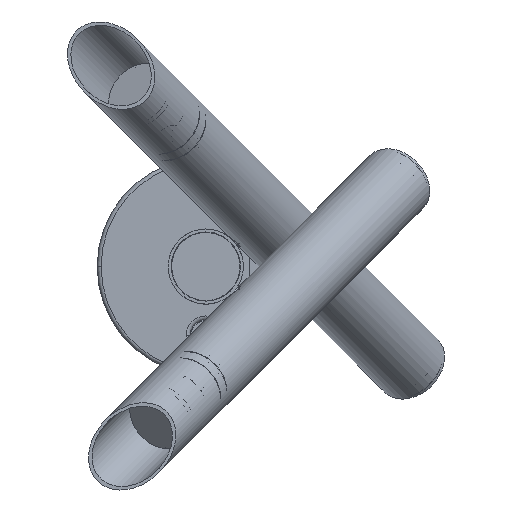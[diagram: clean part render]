
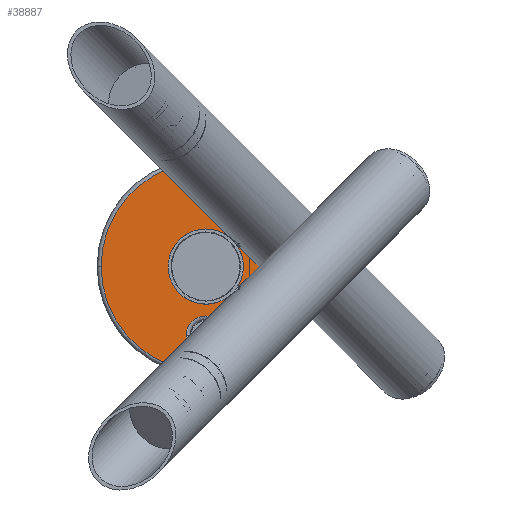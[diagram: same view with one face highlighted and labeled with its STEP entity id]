
A CAD part, front view. The second image highlights one B-rep face of the part: STEP entity #38887.
In plain terms, the highlighted planar face has unit normal (0, -1, 0).
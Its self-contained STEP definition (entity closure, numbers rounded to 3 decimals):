
#416 = EDGE_CURVE ( 'NONE', #54194, #69616, #45746, .T. ) ;
#1630 = DIRECTION ( 'NONE',  ( -1., 0., 0. ) ) ;
#1959 = EDGE_CURVE ( 'NONE', #69616, #54194, #38841, .T. ) ;
#3428 = CIRCLE ( 'NONE', #11368, 10. ) ;
#3968 = CARTESIAN_POINT ( 'NONE',  ( 0., 0., 0. ) ) ;
#4419 = ORIENTED_EDGE ( 'NONE', *, *, #8437, .T. ) ;
#6867 = VERTEX_POINT ( 'NONE', #25228 ) ;
#7138 = DIRECTION ( 'NONE',  ( 0., 1., 0. ) ) ;
#7368 = DIRECTION ( 'NONE',  ( 0., 1., 0. ) ) ;
#7572 = CARTESIAN_POINT ( 'NONE',  ( 0., 0., 0. ) ) ;
#8437 = EDGE_CURVE ( 'NONE', #6867, #61765, #50155, .T. ) ;
#9405 = DIRECTION ( 'NONE',  ( -1., 0., 0. ) ) ;
#9538 = FACE_BOUND ( 'NONE', #16796, .T. ) ;
#10976 = ORIENTED_EDGE ( 'NONE', *, *, #416, .F. ) ;
#11368 = AXIS2_PLACEMENT_3D ( 'NONE', #39543, #7368, #44951 ) ;
#13024 = DIRECTION ( 'NONE',  ( -1., 0., 0. ) ) ;
#14883 = EDGE_CURVE ( 'NONE', #67258, #25877, #48926, .T. ) ;
#15977 = AXIS2_PLACEMENT_3D ( 'NONE', #58848, #26753, #64245 ) ;
#16422 = DIRECTION ( 'NONE',  ( 0., 1., 0. ) ) ;
#16796 = EDGE_LOOP ( 'NONE', ( #68977, #22665 ) ) ;
#21464 = AXIS2_PLACEMENT_3D ( 'NONE', #7572, #45170, #13024 ) ;
#22665 = ORIENTED_EDGE ( 'NONE', *, *, #48272, .T. ) ;
#25228 = CARTESIAN_POINT ( 'NONE',  ( -10., 0., 0. ) ) ;
#25877 = VERTEX_POINT ( 'NONE', #44711 ) ;
#26753 = DIRECTION ( 'NONE',  ( 0., 1., 0. ) ) ;
#28392 = AXIS2_PLACEMENT_3D ( 'NONE', #3968, #41551, #9405 ) ;
#33842 = DIRECTION ( 'NONE',  ( 0., 1., 0. ) ) ;
#34768 = FACE_OUTER_BOUND ( 'NONE', #55350, .T. ) ;
#38841 = CIRCLE ( 'NONE', #21464, 53. ) ;
#38887 = ADVANCED_FACE ( 'NONE', ( #9538, #40287, #34768 ), #66002, .F. ) ;
#38965 = CARTESIAN_POINT ( 'NONE',  ( 0., 0., 0. ) ) ;
#39314 = CARTESIAN_POINT ( 'NONE',  ( 0., 0., 0. ) ) ;
#39543 = CARTESIAN_POINT ( 'NONE',  ( 0., 0., -35. ) ) ;
#40287 = FACE_BOUND ( 'NONE', #56360, .T. ) ;
#40719 = CARTESIAN_POINT ( 'NONE',  ( 10., 0., 0. ) ) ;
#41551 = DIRECTION ( 'NONE',  ( 0., 1., 0. ) ) ;
#42176 = ORIENTED_EDGE ( 'NONE', *, *, #64843, .T. ) ;
#44711 = CARTESIAN_POINT ( 'NONE',  ( 10., 0., -35. ) ) ;
#44732 = DIRECTION ( 'NONE',  ( -1., 0., 0. ) ) ;
#44951 = DIRECTION ( 'NONE',  ( -1., 0., 0. ) ) ;
#45170 = DIRECTION ( 'NONE',  ( 0., 1., 0. ) ) ;
#45746 = CIRCLE ( 'NONE', #15977, 53. ) ;
#46538 = CARTESIAN_POINT ( 'NONE',  ( -10., 0., -35. ) ) ;
#48272 = EDGE_CURVE ( 'NONE', #25877, #67258, #3428, .T. ) ;
#48548 = CARTESIAN_POINT ( 'NONE',  ( 0., 0., -35. ) ) ;
#48926 = CIRCLE ( 'NONE', #68226, 10. ) ;
#50155 = CIRCLE ( 'NONE', #62183, 10. ) ;
#51662 = CARTESIAN_POINT ( 'NONE',  ( 53., 0., 0. ) ) ;
#53988 = DIRECTION ( 'NONE',  ( -1., 0., 0. ) ) ;
#54194 = VERTEX_POINT ( 'NONE', #58953 ) ;
#55350 = EDGE_LOOP ( 'NONE', ( #10976, #60517 ) ) ;
#56360 = EDGE_LOOP ( 'NONE', ( #4419, #42176 ) ) ;
#58373 = CIRCLE ( 'NONE', #28392, 10. ) ;
#58848 = CARTESIAN_POINT ( 'NONE',  ( 0., 0., 0. ) ) ;
#58953 = CARTESIAN_POINT ( 'NONE',  ( -53., 0., 0. ) ) ;
#59435 = AXIS2_PLACEMENT_3D ( 'NONE', #38965, #33842, #1630 ) ;
#60517 = ORIENTED_EDGE ( 'NONE', *, *, #1959, .F. ) ;
#61765 = VERTEX_POINT ( 'NONE', #40719 ) ;
#62183 = AXIS2_PLACEMENT_3D ( 'NONE', #39314, #7138, #44732 ) ;
#64245 = DIRECTION ( 'NONE',  ( -1., 0., 0. ) ) ;
#64843 = EDGE_CURVE ( 'NONE', #61765, #6867, #58373, .T. ) ;
#66002 = PLANE ( 'NONE',  #59435 ) ;
#67258 = VERTEX_POINT ( 'NONE', #46538 ) ;
#68226 = AXIS2_PLACEMENT_3D ( 'NONE', #48548, #16422, #53988 ) ;
#68977 = ORIENTED_EDGE ( 'NONE', *, *, #14883, .T. ) ;
#69616 = VERTEX_POINT ( 'NONE', #51662 ) ;
